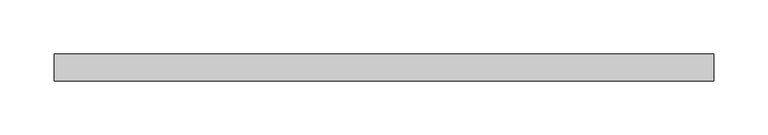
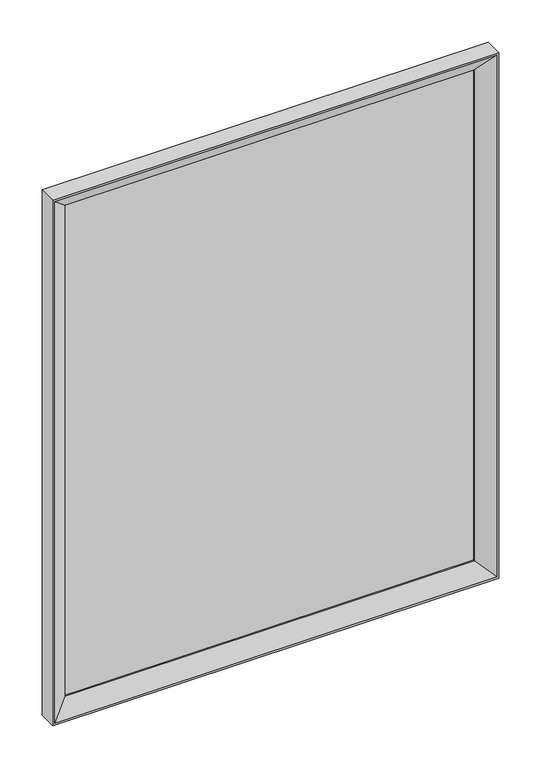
"""IFC4 building model written with IfcOpenShell, lengths in millimetres: proxy geometry, Mirror_Metlam_Framed : 610w x 25d x 760h (ML771_3)."""

from ifc_helpers import new_model, si_unit, frame, origin, place, context, project, spatial, polyline, outline, extrude, faceted_brep, source, transform, mapped, element, save


def specialty_equipment_fa347529(model_context):
    return source(origin(), model_context, "Body", "SolidModel", [
        extrude(outline(polyline([(303.0, -2.0), (303.0, -8.0), (-303.0, -8.0), (-303.0, -2.0), (303.0, -2.0)])), frame((0.0, 0.0, 902.0), z_axis=(0.0, 0.0, 1.0), x_axis=(1.0, 0.0, 0.0)), (0.0, 0.0, 1.0), 756.0),
        faceted_brep([(-305.0, -25.0, 1660.0), (-305.0, 0.0, 1660.0), (-305.0, 0.0, 900.0), (-305.0, -25.0, 900.0), (-280.0, 0.0, 1635.0), (-280.0, -2.0, 1635.0), (-280.0, -2.0, 925.0), (-280.0, 0.0, 925.0), (305.0, 0.0, 900.0), (305.0, -25.0, 900.0), (280.0, -2.0, 925.0), (280.0, 0.0, 925.0), (305.0, 0.0, 1660.0), (305.0, -25.0, 1660.0), (280.0, -2.0, 1635.0), (280.0, 0.0, 1635.0), (-302.4054586, -25.0, 1657.4054586), (302.4054586, -25.0, 1657.4054586), (302.4054586, -25.0, 902.5945414), (-302.4054586, -25.0, 902.5945414), (-303.0, -2.0, 1658.0), (-303.0, -23.0, 1658.0), (-303.0, -23.0, 902.0), (-303.0, -2.0, 902.0), (-280.0, -8.0, 1635.0), (-280.0, -8.0, 925.0), (-280.0, -10.3877444, 1635.0), (-280.0, -10.3877444, 925.0), (303.0, -23.0, 902.0), (303.0, -2.0, 902.0), (280.0, -8.0, 925.0), (280.0, -10.3877444, 925.0), (303.0, -23.0, 1658.0), (303.0, -2.0, 1658.0), (280.0, -8.0, 1635.0), (280.0, -10.3877444, 1635.0)], [[[0, 1, 2, 3]], [[4, 5, 6, 7]], [[3, 2, 8, 9]], [[7, 6, 10, 11]], [[9, 8, 12, 13]], [[11, 10, 14, 15]], [[13, 12, 1, 0]], [[1, 12, 8, 2], [7, 11, 15, 4]], [[15, 14, 5, 4]], [[3, 9, 13, 0], [16, 17, 18, 19]], [[20, 21, 22, 23]], [[21, 24, 25, 22]], [[24, 26, 27, 25]], [[26, 16, 19, 27]], [[23, 22, 28, 29]], [[22, 25, 30, 28]], [[25, 27, 31, 30]], [[27, 19, 18, 31]], [[29, 28, 32, 33]], [[28, 30, 34, 32]], [[30, 31, 35, 34]], [[31, 18, 17, 35]], [[23, 29, 33, 20], [5, 14, 10, 6]], [[33, 32, 21, 20]], [[32, 34, 24, 21]], [[34, 35, 26, 24]], [[35, 17, 16, 26]]]),
    ])


if __name__ == "__main__":
    model = new_model("IFC4")
    model_context = context("Model", 3, world=origin())
    ifc_project = project(units=[si_unit("LENGTHUNIT", "METRE", prefix="MILLI")], contexts=[model_context])
    site = spatial("IfcSite", under=ifc_project)
    building = spatial("IfcBuilding", under=site)
    placement = place(None, origin())
    specialty_equipment_shape = specialty_equipment_fa347529(model_context)
    element("IfcBuildingElementProxy", 1, Name="Mirror_Metlam_Framed : 610w x 25d x 760h (ML771_3)", ObjectType="Mirror_Metlam_Framed : 610w x 25d x 760h (ML771_3)", at=placement, inside=building, context=model_context, shape_type="MappedRepresentation", body=[
        mapped(specialty_equipment_shape, transform((0.0, 0.0, 0.0), x_axis=(1.0, 0.0, 0.0), y_axis=(0.0, 1.0, 0.0), z_axis=(0.0, 0.0, 1.0))),
    ])
    save(model, "model.ifc")
